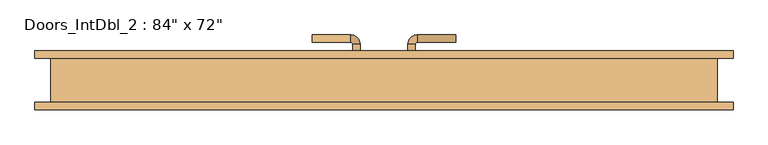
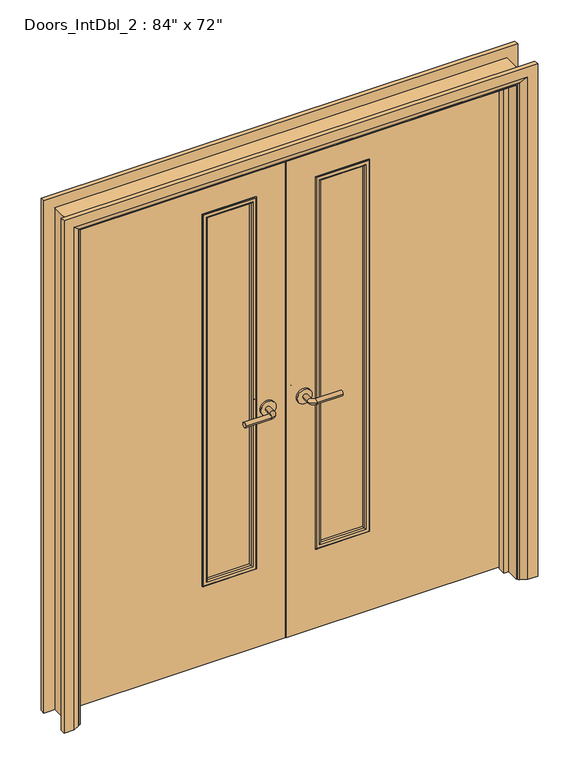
"""IFC4 building model written with IfcOpenShell, lengths in millimetres: door geometry."""

from ifc_helpers import new_model, si_unit, point, frame, frame_2d, origin, place, context, project, spatial, polyline, circle_curve, ellipse_curve, trimmed, segment, composite_curve, outline, extrude, faceted_brep, source, transform, mapped, element, save
from ifc_brep_helpers import plane_surface, cylinder_surface, revolved_surface, advanced_brep


def door_3b9bbc01(model_context):
    return source(origin(), model_context, "Body", "SolidModel", [
        advanced_brep(
        [(-65.0, 20.0, 1007.0), (-85.0, 20.0, 1007.0), (-65.0, -10.0, 1007.0), (-85.0, -10.0, 1007.0), (-90.0, -15.0, 1007.0), (-90.0, -35.0, 1007.0), (-195.0, -35.0, 1007.0), (-195.0, -15.0, 1007.0)],
        [
            (0, 1, circle_curve(frame((-75.0, 20.0, 1007.0), z_axis=(0.0, 1.0, 0.0), x_axis=(-1.0, 0.0, 0.0)), 10.0)),
            (1, 0, circle_curve(frame((-75.0, 20.0, 1007.0), z_axis=(0.0, 1.0, 0.0), x_axis=(-1.0, 0.0, 0.0)), 10.0)),
            (0, 2),
            (2, 3, circle_curve(frame((-75.0, -10.0, 1007.0), z_axis=(0.0, 1.0, 0.0), x_axis=(-1.0, 0.0, 0.0)), 10.0)),
            (3, 1),
            (3, 2, circle_curve(frame((-75.0, -10.0, 1007.0), z_axis=(0.0, 1.0, 0.0), x_axis=(-1.0, 0.0, 0.0)), 10.0)),
            (4, 3, circle_curve(frame((-90.0, -10.0, 1007.0), z_axis=(0.0, 0.0, 1.0), x_axis=(1.0, 0.0, 0.0)), 5.0)),
            (2, 5, circle_curve(frame((-90.0, -10.0, 1007.0), z_axis=(0.0, 0.0, -1.0), x_axis=(1.0, 0.0, 0.0)), 25.0)),
            (5, 4, circle_curve(frame((-90.0, -25.0, 1007.0), z_axis=(1.0, 0.0, 0.0), x_axis=(0.0, 1.0, 0.0)), 10.0)),
            (4, 5, circle_curve(frame((-90.0, -25.0, 1007.0), z_axis=(1.0, 0.0, 0.0), x_axis=(0.0, 1.0, 0.0)), 10.0)),
            (6, 7, circle_curve(frame((-195.0, -25.0, 1007.0), z_axis=(-1.0, 0.0, 0.0), x_axis=(0.0, 1.0, 0.0)), 10.0)),
            (7, 6, circle_curve(frame((-195.0, -25.0, 1007.0), z_axis=(-1.0, 0.0, 0.0), x_axis=(0.0, 1.0, 0.0)), 10.0)),
            (5, 6),
            (7, 4),
        ],
        [
            plane_surface(frame((-75.0, 20.0, 1007.0), z_axis=(0.0, 1.0, 0.0), x_axis=(0.0, 0.0, 1.0))),
            cylinder_surface(frame((-75.0, 20.0, 1007.0), z_axis=(0.0, 1.0, 0.0), x_axis=(-1.0, 0.0, 0.0)), 10.0),
            revolved_surface(trimmed(ellipse_curve(frame((-75.0, -10.0, 1007.0), z_axis=(0.0, 1.0, 0.0), x_axis=(-1.0, 0.0, 0.0)), 10.0, 10.0), [point((-65.0, -10.0, 1007.0))], [point((-85.0, -10.0, 1007.0))], True, "CARTESIAN"), (-90.0, -10.0, 1007.0), (0.0, 0.0, -1.0)),
            revolved_surface(trimmed(ellipse_curve(frame((-75.0, -10.0, 1007.0), z_axis=(0.0, 1.0, 0.0), x_axis=(-1.0, 0.0, 0.0)), 10.0, 10.0), [point((-85.0, -10.0, 1007.0))], [point((-65.0, -10.0, 1007.0))], True, "CARTESIAN"), (-90.0, -10.0, 1007.0), (0.0, 0.0, -1.0)),
            plane_surface(frame((-195.0, -25.0, 1007.0), z_axis=(-1.0, 0.0, 0.0), x_axis=(0.0, 0.0, 1.0))),
            cylinder_surface(frame((-90.0, -25.0, 1007.0), z_axis=(1.0, 0.0, 0.0), x_axis=(0.0, 1.0, 0.0)), 10.0),
        ],
        [
            (0, [[1, 2]]),
            (1, [[-1, 3, 4, 5]]),
            (1, [[-2, -5, 6, -3]]),
            (2, [[7, -4, 8, 9]]),
            (3, [[-8, -6, -7, 10]]),
            (4, [[11, 12]]),
            (5, [[-9, 13, -12, 14]]),
            (5, [[-10, -14, -11, -13]]),
        ],
    ),
        extrude(outline(composite_curve([segment(trimmed(circle_curve(frame_2d((1007.0, -72.5)), 30.0), [point((1007.0, -42.5))], [point((1007.0, -102.5))], False, "CARTESIAN"), True, "CONTINUOUS"), segment(trimmed(circle_curve(frame_2d((1007.0, -72.5)), 30.0), [point((1007.0, -102.5))], [point((1007.0, -42.5))], False, "CARTESIAN"), True, "CONTINUOUS")], self_intersect=False)), frame((0.0, 20.0, 0.0), z_axis=(0.0, 1.0, 0.0), x_axis=(0.0, 0.0, 1.0)), (0.0, 0.0, 1.0), 8.0),
        advanced_brep(
        [(-65.0, 68.0, 1007.0), (-85.0, 68.0, 1007.0), (-85.0, 98.0, 1007.0), (-65.0, 98.0, 1007.0), (-90.0, 103.0, 1007.0), (-90.0, 123.0, 1007.0), (-195.0, 123.0, 1007.0), (-195.0, 103.0, 1007.0)],
        [
            (0, 1, circle_curve(frame((-75.0, 68.0, 1007.0), z_axis=(0.0, -1.0, 0.0), x_axis=(-1.0, 0.0, 0.0)), 10.0)),
            (1, 0, circle_curve(frame((-75.0, 68.0, 1007.0), z_axis=(0.0, -1.0, 0.0), x_axis=(-1.0, 0.0, 0.0)), 10.0)),
            (1, 2),
            (2, 3, circle_curve(frame((-75.0, 98.0, 1007.0), z_axis=(0.0, -1.0, 0.0), x_axis=(-1.0, 0.0, 0.0)), 10.0)),
            (3, 0),
            (3, 2, circle_curve(frame((-75.0, 98.0, 1007.0), z_axis=(0.0, -1.0, 0.0), x_axis=(-1.0, 0.0, 0.0)), 10.0)),
            (4, 5, circle_curve(frame((-90.0, 113.0, 1007.0), z_axis=(1.0, 0.0, 0.0), x_axis=(0.0, -1.0, 0.0)), 10.0)),
            (5, 3, circle_curve(frame((-90.0, 98.0, 1007.0), z_axis=(0.0, 0.0, -1.0), x_axis=(1.0, 0.0, 0.0)), 25.0)),
            (2, 4, circle_curve(frame((-90.0, 98.0, 1007.0), z_axis=(0.0, 0.0, 1.0), x_axis=(1.0, 0.0, 0.0)), 5.0)),
            (5, 4, circle_curve(frame((-90.0, 113.0, 1007.0), z_axis=(1.0, 0.0, 0.0), x_axis=(0.0, -1.0, 0.0)), 10.0)),
            (6, 7, circle_curve(frame((-195.0, 113.0, 1007.0), z_axis=(-1.0, 0.0, 0.0), x_axis=(0.0, -1.0, 0.0)), 10.0)),
            (7, 6, circle_curve(frame((-195.0, 113.0, 1007.0), z_axis=(-1.0, 0.0, 0.0), x_axis=(0.0, -1.0, 0.0)), 10.0)),
            (4, 7),
            (6, 5),
        ],
        [
            plane_surface(frame((-75.0, 68.0, 1007.0), z_axis=(0.0, -1.0, 0.0), x_axis=(0.0, 0.0, 1.0))),
            cylinder_surface(frame((-75.0, 68.0, 1007.0), z_axis=(0.0, -1.0, 0.0), x_axis=(-1.0, 0.0, 0.0)), 10.0),
            revolved_surface(trimmed(ellipse_curve(frame((-75.0, 98.0, 1007.0), z_axis=(0.0, 1.0, 0.0), x_axis=(-1.0, 0.0, 0.0)), 10.0, 10.0), [point((-65.0, 98.0, 1007.0))], [point((-85.0, 98.0, 1007.0))], True, "CARTESIAN"), (-90.0, 98.0, 1007.0), (0.0, 0.0, -1.0)),
            revolved_surface(trimmed(ellipse_curve(frame((-75.0, 98.0, 1007.0), z_axis=(0.0, 1.0, 0.0), x_axis=(-1.0, 0.0, 0.0)), 10.0, 10.0), [point((-85.0, 98.0, 1007.0))], [point((-65.0, 98.0, 1007.0))], True, "CARTESIAN"), (-90.0, 98.0, 1007.0), (0.0, 0.0, -1.0)),
            plane_surface(frame((-195.0, 113.0, 1007.0), z_axis=(-1.0, 0.0, 0.0), x_axis=(0.0, 0.0, 1.0))),
            cylinder_surface(frame((-90.0, 113.0, 1007.0), z_axis=(1.0, 0.0, 0.0), x_axis=(0.0, -1.0, 0.0)), 10.0),
        ],
        [
            (0, [[1, 2]]),
            (1, [[3, 4, 5, -2]]),
            (1, [[-5, 6, -3, -1]]),
            (2, [[7, 8, -4, 9]]),
            (3, [[10, -9, -6, -8]]),
            (4, [[11, 12]]),
            (5, [[13, -11, 14, -7]]),
            (5, [[-14, -12, -13, -10]]),
        ],
    ),
        extrude(outline(composite_curve([segment(trimmed(circle_curve(frame_2d((1007.0, -72.5)), 30.0), [point((1007.0, -42.5))], [point((1007.0, -102.5))], False, "CARTESIAN"), True, "CONTINUOUS"), segment(trimmed(circle_curve(frame_2d((1007.0, -72.5)), 30.0), [point((1007.0, -102.5))], [point((1007.0, -42.5))], False, "CARTESIAN"), True, "CONTINUOUS")], self_intersect=False)), frame((0.0, 60.0, 0.0), z_axis=(0.0, 1.0, 0.0), x_axis=(0.0, 0.0, 1.0)), (0.0, 0.0, 1.0), 8.0),
        advanced_brep(
        [(65.0, 20.0, 1007.0), (85.0, 20.0, 1007.0), (85.0, -10.0, 1007.0), (65.0, -10.0, 1007.0), (90.0, -15.0, 1007.0), (90.0, -35.0, 1007.0), (195.0, -35.0, 1007.0), (195.0, -15.0, 1007.0)],
        [
            (0, 1, circle_curve(frame((75.0, 20.0, 1007.0), z_axis=(0.0, 1.0, 0.0), x_axis=(1.0, 0.0, 0.0)), 10.0)),
            (1, 0, circle_curve(frame((75.0, 20.0, 1007.0), z_axis=(0.0, 1.0, 0.0), x_axis=(1.0, 0.0, 0.0)), 10.0)),
            (1, 2),
            (2, 3, circle_curve(frame((75.0, -10.0, 1007.0), z_axis=(0.0, 1.0, 0.0), x_axis=(1.0, 0.0, 0.0)), 10.0)),
            (3, 0),
            (3, 2, circle_curve(frame((75.0, -10.0, 1007.0), z_axis=(0.0, 1.0, 0.0), x_axis=(1.0, 0.0, 0.0)), 10.0)),
            (4, 5, circle_curve(frame((90.0, -25.0, 1007.0), z_axis=(-1.0, 0.0, 0.0), x_axis=(0.0, 1.0, 0.0)), 10.0)),
            (5, 3, circle_curve(frame((90.0, -10.0, 1007.0), z_axis=(0.0, 0.0, -1.0), x_axis=(-1.0, 0.0, 0.0)), 25.0)),
            (2, 4, circle_curve(frame((90.0, -10.0, 1007.0), z_axis=(0.0, 0.0, 1.0), x_axis=(-1.0, 0.0, 0.0)), 5.0)),
            (5, 4, circle_curve(frame((90.0, -25.0, 1007.0), z_axis=(-1.0, 0.0, 0.0), x_axis=(0.0, 1.0, 0.0)), 10.0)),
            (6, 7, circle_curve(frame((195.0, -25.0, 1007.0), z_axis=(1.0, 0.0, 0.0), x_axis=(0.0, 1.0, 0.0)), 10.0)),
            (7, 6, circle_curve(frame((195.0, -25.0, 1007.0), z_axis=(1.0, 0.0, 0.0), x_axis=(0.0, 1.0, 0.0)), 10.0)),
            (4, 7),
            (6, 5),
        ],
        [
            plane_surface(frame((75.0, 20.0, 1007.0), z_axis=(0.0, 1.0, 0.0), x_axis=(0.0, 0.0, 1.0))),
            cylinder_surface(frame((75.0, 20.0, 1007.0), z_axis=(0.0, 1.0, 0.0), x_axis=(1.0, 0.0, 0.0)), 10.0),
            revolved_surface(trimmed(ellipse_curve(frame((75.0, -10.0, 1007.0), z_axis=(0.0, -1.0, 0.0), x_axis=(1.0, 0.0, 0.0)), 10.0, 10.0), [point((65.0, -10.0, 1007.0))], [point((85.0, -10.0, 1007.0))], True, "CARTESIAN"), (90.0, -10.0, 1007.0), (0.0, 0.0, -1.0)),
            revolved_surface(trimmed(ellipse_curve(frame((75.0, -10.0, 1007.0), z_axis=(0.0, -1.0, 0.0), x_axis=(1.0, 0.0, 0.0)), 10.0, 10.0), [point((85.0, -10.0, 1007.0))], [point((65.0, -10.0, 1007.0))], True, "CARTESIAN"), (90.0, -10.0, 1007.0), (0.0, 0.0, -1.0)),
            plane_surface(frame((195.0, -25.0, 1007.0), z_axis=(1.0, 0.0, 0.0), x_axis=(0.0, 0.0, 1.0))),
            cylinder_surface(frame((90.0, -25.0, 1007.0), z_axis=(-1.0, 0.0, 0.0), x_axis=(0.0, 1.0, 0.0)), 10.0),
        ],
        [
            (0, [[1, 2]]),
            (1, [[3, 4, 5, -2]]),
            (1, [[-5, 6, -3, -1]]),
            (2, [[7, 8, -4, 9]]),
            (3, [[10, -9, -6, -8]]),
            (4, [[11, 12]]),
            (5, [[13, -11, 14, -7]]),
            (5, [[-14, -12, -13, -10]]),
        ],
    ),
        extrude(outline(composite_curve([segment(trimmed(circle_curve(frame_2d((1007.0, 72.5)), 30.0), [point((1007.0, 42.5))], [point((1007.0, 102.5))], False, "CARTESIAN"), True, "CONTINUOUS"), segment(trimmed(circle_curve(frame_2d((1007.0, 72.5)), 30.0), [point((1007.0, 102.5))], [point((1007.0, 42.5))], False, "CARTESIAN"), True, "CONTINUOUS")], self_intersect=False)), frame((0.0, 20.0, 0.0), z_axis=(0.0, 1.0, 0.0), x_axis=(0.0, 0.0, 1.0)), (0.0, 0.0, 1.0), 8.0),
        advanced_brep(
        [(65.0, 68.0, 1007.0), (85.0, 68.0, 1007.0), (65.0, 98.0, 1007.0), (85.0, 98.0, 1007.0), (90.0, 103.0, 1007.0), (90.0, 123.0, 1007.0), (195.0, 123.0, 1007.0), (195.0, 103.0, 1007.0)],
        [
            (0, 1, circle_curve(frame((75.0, 68.0, 1007.0), z_axis=(0.0, -1.0, 0.0), x_axis=(1.0, 0.0, 0.0)), 10.0)),
            (1, 0, circle_curve(frame((75.0, 68.0, 1007.0), z_axis=(0.0, -1.0, 0.0), x_axis=(1.0, 0.0, 0.0)), 10.0)),
            (0, 2),
            (2, 3, circle_curve(frame((75.0, 98.0, 1007.0), z_axis=(0.0, -1.0, 0.0), x_axis=(1.0, 0.0, 0.0)), 10.0)),
            (3, 1),
            (3, 2, circle_curve(frame((75.0, 98.0, 1007.0), z_axis=(0.0, -1.0, 0.0), x_axis=(1.0, 0.0, 0.0)), 10.0)),
            (4, 3, circle_curve(frame((90.0, 98.0, 1007.0), z_axis=(0.0, 0.0, 1.0), x_axis=(-1.0, 0.0, 0.0)), 5.0)),
            (2, 5, circle_curve(frame((90.0, 98.0, 1007.0), z_axis=(0.0, 0.0, -1.0), x_axis=(-1.0, 0.0, 0.0)), 25.0)),
            (5, 4, circle_curve(frame((90.0, 113.0, 1007.0), z_axis=(-1.0, 0.0, 0.0), x_axis=(0.0, -1.0, 0.0)), 10.0)),
            (4, 5, circle_curve(frame((90.0, 113.0, 1007.0), z_axis=(-1.0, 0.0, 0.0), x_axis=(0.0, -1.0, 0.0)), 10.0)),
            (6, 7, circle_curve(frame((195.0, 113.0, 1007.0), z_axis=(1.0, 0.0, 0.0), x_axis=(0.0, -1.0, 0.0)), 10.0)),
            (7, 6, circle_curve(frame((195.0, 113.0, 1007.0), z_axis=(1.0, 0.0, 0.0), x_axis=(0.0, -1.0, 0.0)), 10.0)),
            (5, 6),
            (7, 4),
        ],
        [
            plane_surface(frame((75.0, 68.0, 1007.0), z_axis=(0.0, -1.0, 0.0), x_axis=(0.0, 0.0, 1.0))),
            cylinder_surface(frame((75.0, 68.0, 1007.0), z_axis=(0.0, -1.0, 0.0), x_axis=(1.0, 0.0, 0.0)), 10.0),
            revolved_surface(trimmed(ellipse_curve(frame((75.0, 98.0, 1007.0), z_axis=(0.0, -1.0, 0.0), x_axis=(1.0, 0.0, 0.0)), 10.0, 10.0), [point((65.0, 98.0, 1007.0))], [point((85.0, 98.0, 1007.0))], True, "CARTESIAN"), (90.0, 98.0, 1007.0), (0.0, 0.0, -1.0)),
            revolved_surface(trimmed(ellipse_curve(frame((75.0, 98.0, 1007.0), z_axis=(0.0, -1.0, 0.0), x_axis=(1.0, 0.0, 0.0)), 10.0, 10.0), [point((85.0, 98.0, 1007.0))], [point((65.0, 98.0, 1007.0))], True, "CARTESIAN"), (90.0, 98.0, 1007.0), (0.0, 0.0, -1.0)),
            plane_surface(frame((195.0, 113.0, 1007.0), z_axis=(1.0, 0.0, 0.0), x_axis=(0.0, 0.0, 1.0))),
            cylinder_surface(frame((90.0, 113.0, 1007.0), z_axis=(-1.0, 0.0, 0.0), x_axis=(0.0, -1.0, 0.0)), 10.0),
        ],
        [
            (0, [[1, 2]]),
            (1, [[-1, 3, 4, 5]]),
            (1, [[-2, -5, 6, -3]]),
            (2, [[7, -4, 8, 9]]),
            (3, [[-8, -6, -7, 10]]),
            (4, [[11, 12]]),
            (5, [[-9, 13, -12, 14]]),
            (5, [[-10, -14, -11, -13]]),
        ],
    ),
        extrude(outline(composite_curve([segment(trimmed(circle_curve(frame_2d((1007.0, 72.5)), 30.0), [point((1007.0, 42.5))], [point((1007.0, 102.5))], False, "CARTESIAN"), True, "CONTINUOUS"), segment(trimmed(circle_curve(frame_2d((1007.0, 72.5)), 30.0), [point((1007.0, 102.5))], [point((1007.0, 42.5))], False, "CARTESIAN"), True, "CONTINUOUS")], self_intersect=False)), frame((0.0, 60.0, 0.0), z_axis=(0.0, 1.0, 0.0), x_axis=(0.0, 0.0, 1.0)), (0.0, 0.0, 1.0), 8.0),
        advanced_brep(
        [(-949.4, -80.0, 0.0), (-949.4, -60.0, 0.0), (-879.4, -60.0, 0.0), (-883.4, -66.0, 0.0), (-909.4, -80.0, 0.0), (-949.4, -80.0, 2168.6), (-949.4, -60.0, 2168.6), (949.4, -60.0, 2168.6), (949.4, -60.0, 0.0), (879.4, -60.0, 0.0), (879.4, -60.0, 2098.6), (-879.4, -60.0, 2098.6), (-883.4, -66.0, 2102.6), (-909.4, -80.0, 2128.6), (909.4, -80.0, 2128.6), (909.4, -80.0, 0.0), (949.4, -80.0, 0.0), (949.4, -80.0, 2168.6), (883.4, -66.0, 0.0), (883.4, -66.0, 2102.6)],
        [
            (0, 1),
            (1, 2),
            (2, 3, circle_curve(frame((-887.4, -59.0, 0.0), z_axis=(0.0, 0.0, -1.0), x_axis=(-1.0, 0.0, 0.0)), 8.0622577)),
            (3, 4),
            (4, 0),
            (0, 5),
            (5, 6),
            (6, 1),
            (6, 7),
            (7, 8),
            (8, 9),
            (9, 10),
            (10, 11),
            (11, 2),
            (11, 12, ellipse_curve(frame((-887.4, -59.0, 2106.6), z_axis=(-0.7071067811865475, 0.0, -0.7071067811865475), x_axis=(0.7071067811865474, 0.0, -0.7071067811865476)), 11.4017543, 8.0622577)),
            (12, 3),
            (12, 13),
            (13, 4),
            (13, 14),
            (14, 15),
            (15, 16),
            (16, 17),
            (17, 5),
            (7, 17),
            (16, 8),
            (15, 18),
            (18, 9, circle_curve(frame((887.4, -59.0, 0.0), z_axis=(0.0, 0.0, -1.0), x_axis=(1.0, 0.0, 0.0)), 8.0622577)),
            (19, 10, ellipse_curve(frame((887.4, -59.0, 2106.6), z_axis=(0.7071067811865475, 0.0, -0.7071067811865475), x_axis=(0.7071067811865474, 0.0, 0.7071067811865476)), 11.4017543, 8.0622577)),
            (18, 19),
            (14, 19),
            (19, 12),
        ],
        [
            plane_surface(frame((-879.4, -60.0, 0.0), z_axis=(0.0, 0.0, -1.0), x_axis=(0.0, -1.0, 0.0))),
            plane_surface(frame((-949.4, -80.0, 0.0), z_axis=(-1.0, 0.0, 0.0), x_axis=(0.0, 0.0, 1.0))),
            plane_surface(frame((-949.4, -60.0, 0.0), z_axis=(0.0, 1.0, 0.0), x_axis=(0.0, 0.0, 1.0))),
            cylinder_surface(frame((-887.4, -59.0, 0.0), z_axis=(0.0, 0.0, -1.0), x_axis=(-1.0, 0.0, 0.0)), 8.0622577),
            plane_surface(frame((-883.4, -66.0, 0.0), z_axis=(0.4740998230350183, -0.8804710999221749, 0.0), x_axis=(0.0, 0.0, 1.0))),
            plane_surface(frame((-909.4, -80.0, 0.0), z_axis=(0.0, -1.0, 0.0), x_axis=(0.0, 0.0, 1.0))),
            plane_surface(frame((949.4, -80.0, 2168.6), z_axis=(1.0, 0.0, 0.0), x_axis=(0.0, 0.0, -1.0))),
            plane_surface(frame((879.4, -60.0, 0.0), z_axis=(0.0, 0.0, -1.0), x_axis=(0.0, -1.0, 0.0))),
            cylinder_surface(frame((887.4, -59.0, 2098.6), z_axis=(0.0, 0.0, 1.0), x_axis=(1.0, 0.0, 0.0)), 8.0622577),
            plane_surface(frame((883.4, -66.0, 2102.6), z_axis=(-0.4740998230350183, -0.8804710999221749, 0.0), x_axis=(0.0, 0.0, -1.0))),
            plane_surface(frame((-949.4, -80.0, 2168.6), z_axis=(0.0, 0.0, 1.0), x_axis=(1.0, 0.0, 0.0))),
            cylinder_surface(frame((-879.4, -59.0, 2106.6), z_axis=(-1.0, 0.0, 0.0), x_axis=(0.0, 0.0, 1.0)), 8.0622577),
            plane_surface(frame((-883.4, -66.0, 2102.6), z_axis=(0.0, -0.8804710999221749, -0.4740998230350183), x_axis=(1.0, 0.0, 0.0))),
        ],
        [
            (0, [[1, 2, 3, 4, 5]]),
            (1, [[-1, 6, 7, 8]]),
            (2, [[-2, -8, 9, 10, 11, 12, 13, 14]]),
            (3, [[-3, -14, 15, 16]]),
            (4, [[-4, -16, 17, 18]]),
            (5, [[-5, -18, 19, 20, 21, 22, 23, -6]]),
            (6, [[24, -22, 25, -10]]),
            (7, [[-21, 26, 27, -11, -25]]),
            (8, [[28, -12, -27, 29]]),
            (9, [[30, -29, -26, -20]]),
            (10, [[-7, -23, -24, -9]]),
            (11, [[-15, -13, -28, 31]]),
            (12, [[-17, -31, -30, -19]]),
        ],
    ),
        advanced_brep(
        [(949.4, 80.0, 0.0), (949.4, 60.0, 0.0), (879.4, 60.0, 0.0), (883.4, 66.0, 0.0), (909.4, 80.0, 0.0), (949.4, 80.0, 2168.6), (949.4, 60.0, 2168.6), (-949.4, 60.0, 2168.6), (-949.4, 60.0, 0.0), (-879.4, 60.0, 0.0), (-879.4, 60.0, 2098.6), (879.4, 60.0, 2098.6), (883.4, 66.0, 2102.6), (909.4, 80.0, 2128.6), (-909.4, 80.0, 2128.6), (-909.4, 80.0, 0.0), (-949.4, 80.0, 0.0), (-949.4, 80.0, 2168.6), (-883.4, 66.0, 0.0), (-883.4, 66.0, 2102.6)],
        [
            (0, 1),
            (1, 2),
            (2, 3, circle_curve(frame((887.4, 59.0, 0.0), z_axis=(0.0, 0.0, -1.0), x_axis=(1.0, 0.0, 0.0)), 8.0622577)),
            (3, 4),
            (4, 0),
            (0, 5),
            (5, 6),
            (6, 1),
            (6, 7),
            (7, 8),
            (8, 9),
            (9, 10),
            (10, 11),
            (11, 2),
            (11, 12, ellipse_curve(frame((887.4, 59.0, 2106.6), z_axis=(0.7071067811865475, 0.0, -0.7071067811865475), x_axis=(-0.7071067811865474, 0.0, -0.7071067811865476)), 11.4017543, 8.0622577)),
            (12, 3),
            (12, 13),
            (13, 4),
            (13, 14),
            (14, 15),
            (15, 16),
            (16, 17),
            (17, 5),
            (7, 17),
            (16, 8),
            (15, 18),
            (18, 9, circle_curve(frame((-887.4, 59.0, 0.0), z_axis=(0.0, 0.0, -1.0), x_axis=(-1.0, 0.0, 0.0)), 8.0622577)),
            (19, 10, ellipse_curve(frame((-887.4, 59.0, 2106.6), z_axis=(-0.7071067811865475, 0.0, -0.7071067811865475), x_axis=(-0.7071067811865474, 0.0, 0.7071067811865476)), 11.4017543, 8.0622577)),
            (18, 19),
            (14, 19),
            (19, 12),
        ],
        [
            plane_surface(frame((879.4, 60.0, 0.0), z_axis=(0.0, 0.0, -1.0), x_axis=(0.0, -1.0, 0.0))),
            plane_surface(frame((949.4, 80.0, 0.0), z_axis=(1.0, 0.0, 0.0), x_axis=(0.0, 0.0, 1.0))),
            plane_surface(frame((949.4, 60.0, 0.0), z_axis=(0.0, -1.0, 0.0), x_axis=(0.0, 0.0, 1.0))),
            cylinder_surface(frame((887.4, 59.0, 0.0), z_axis=(0.0, 0.0, -1.0), x_axis=(1.0, 0.0, 0.0)), 8.0622577),
            plane_surface(frame((883.4, 66.0, 0.0), z_axis=(-0.4740998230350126, 0.8804710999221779, 0.0), x_axis=(0.0, 0.0, 1.0))),
            plane_surface(frame((909.4, 80.0, 0.0), z_axis=(0.0, 1.0, 0.0), x_axis=(0.0, 0.0, 1.0))),
            plane_surface(frame((-949.4, 80.0, 2168.6), z_axis=(-1.0, 0.0, 0.0), x_axis=(0.0, 0.0, -1.0))),
            plane_surface(frame((-879.4, 60.0, 0.0), z_axis=(0.0, 0.0, -1.0), x_axis=(0.0, -1.0, 0.0))),
            cylinder_surface(frame((-887.4, 59.0, 2098.6), z_axis=(0.0, 0.0, 1.0), x_axis=(-1.0, 0.0, 0.0)), 8.0622577),
            plane_surface(frame((-883.4, 66.0, 2102.6), z_axis=(0.4740998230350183, 0.8804710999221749, 0.0), x_axis=(0.0, 0.0, -1.0))),
            plane_surface(frame((949.4, 80.0, 2168.6), z_axis=(0.0, 0.0, 1.0), x_axis=(-1.0, 0.0, 0.0))),
            cylinder_surface(frame((879.4, 59.0, 2106.6), z_axis=(1.0, 0.0, 0.0), x_axis=(0.0, 0.0, 1.0)), 8.0622577),
            plane_surface(frame((883.4, 66.0, 2102.6), z_axis=(0.0, 0.8804710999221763, -0.4740998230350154), x_axis=(-1.0, 0.0, 0.0))),
        ],
        [
            (0, [[1, 2, 3, 4, 5]]),
            (1, [[-1, 6, 7, 8]]),
            (2, [[-2, -8, 9, 10, 11, 12, 13, 14]]),
            (3, [[-3, -14, 15, 16]]),
            (4, [[-4, -16, 17, 18]]),
            (5, [[-5, -18, 19, 20, 21, 22, 23, -6]]),
            (6, [[24, -22, 25, -10]]),
            (7, [[-21, 26, 27, -11, -25]]),
            (8, [[28, -12, -27, 29]]),
            (9, [[30, -29, -26, -20]]),
            (10, [[-7, -23, -24, -9]]),
            (11, [[-15, -13, -28, 31]]),
            (12, [[-17, -31, -30, -19]]),
        ],
    ),
        faceted_brep([(-855.4, 25.0, 0.0), (-855.4, -7.0, 0.0), (-874.4, -7.0, 0.0), (-874.4, 25.0, 0.0), (-855.4, 25.0, 2074.6), (-855.4, -7.0, 2074.6), (-874.4, -7.0, 2093.6), (-874.4, 25.0, 2093.6), (855.4, 25.0, 0.0), (874.4, 25.0, 0.0), (874.4, -7.0, 0.0), (855.4, -7.0, 0.0), (855.4, 25.0, 2074.6), (874.4, 25.0, 2093.6), (874.4, -7.0, 2093.6), (855.4, -7.0, 2074.6)], [[[0, 1, 2, 3]], [[1, 0, 4, 5]], [[2, 1, 5, 6]], [[3, 2, 6, 7]], [[0, 3, 7, 4]], [[8, 9, 10, 11]], [[12, 13, 9, 8]], [[13, 14, 10, 9]], [[14, 15, 11, 10]], [[15, 12, 8, 11]], [[5, 4, 12, 15]], [[6, 5, 15, 14]], [[7, 6, 14, 13]], [[4, 7, 13, 12]]]),
        extrude(outline(polyline([(2125.6, -906.4), (0.0, -906.4), (0.0, -874.4), (2093.6, -874.4), (2093.6, 874.4), (0.0, 874.4), (0.0, 906.4), (2125.6, 906.4), (2125.6, -906.4)])), frame((0.0, -60.0, 0.0), z_axis=(0.0, 1.0, 0.0), x_axis=(0.0, 0.0, 1.0)), (0.0, 0.0, 1.0), 120.0),
        extrude(outline(polyline([(326.5, 38.0), (126.5, 38.0), (126.5, 50.0), (326.5, 50.0), (326.5, 38.0)])), frame((0.0, 0.0, 350.0), z_axis=(0.0, 0.0, 1.0), x_axis=(1.0, 0.0, 0.0)), (0.0, 0.0, 1.0), 1558.6),
        extrude(outline(polyline([(-126.5, 38.0), (-326.5, 38.0), (-326.5, 50.0), (-126.5, 50.0), (-126.5, 38.0)])), frame((0.0, 0.0, 350.0), z_axis=(0.0, 0.0, 1.0), x_axis=(1.0, 0.0, 0.0)), (0.0, 0.0, 1.0), 1558.6),
        extrude(outline(polyline([(5.753223, -871.4), (5.753223, -1.5), (2090.6, -1.5), (2090.6, -871.4), (5.753223, -871.4)]), holes=[polyline([(1908.6, -326.5), (1908.6, -126.5), (350.0, -126.5), (350.0, -326.5), (1908.6, -326.5)])]), frame((0.0, 28.0, 0.0), z_axis=(0.0, 1.0, 0.0), x_axis=(0.0, 0.0, 1.0)), (0.0, 0.0, 1.0), 32.0),
        extrude(outline(polyline([(5.753223, 871.4), (2090.6, 871.4), (2090.6, 1.5), (5.753223, 1.5), (5.753223, 871.4)]), holes=[polyline([(1908.6, 126.5), (1908.6, 326.5), (350.0, 326.5), (350.0, 126.5), (1908.6, 126.5)])]), frame((0.0, 28.0, 0.0), z_axis=(0.0, 1.0, 0.0), x_axis=(0.0, 0.0, 1.0)), (0.0, 0.0, 1.0), 32.0),
        advanced_brep(
        [(326.5, 38.0, 1908.6), (326.5, 28.0, 1908.6), (326.5, 28.0, 350.0), (326.5, 38.0, 350.0), (314.5, 27.0, 1896.6), (314.5, 38.0, 1896.6), (314.5, 38.0, 362.0), (314.5, 27.0, 362.0), (319.5, 22.0, 1901.6), (319.5, 22.0, 357.0), (334.5, 24.0, 1916.6), (332.5, 22.0, 1914.6), (332.5, 22.0, 344.0), (334.5, 24.0, 342.0), (334.5, 28.0, 1916.6), (334.5, 28.0, 342.0), (126.5, 28.0, 350.0), (126.5, 38.0, 350.0), (138.5, 38.0, 362.0), (138.5, 27.0, 362.0), (133.5, 22.0, 357.0), (120.5, 22.0, 344.0), (118.5, 24.0, 342.0), (118.5, 28.0, 342.0), (126.5, 28.0, 1908.6), (126.5, 38.0, 1908.6), (138.5, 38.0, 1896.6), (138.5, 27.0, 1896.6), (133.5, 22.0, 1901.6), (120.5, 22.0, 1914.6), (118.5, 24.0, 1916.6), (118.5, 28.0, 1916.6)],
        [
            (0, 1),
            (1, 2),
            (2, 3),
            (3, 0),
            (4, 5),
            (5, 6),
            (6, 7),
            (7, 4),
            (8, 4, ellipse_curve(frame((319.5, 27.0, 1901.6), z_axis=(0.7071067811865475, 0.0, -0.7071067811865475), x_axis=(0.7071067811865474, 0.0, 0.7071067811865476)), 7.0710678, 5.0)),
            (7, 9, ellipse_curve(frame((319.5, 27.0, 357.0), z_axis=(0.7071067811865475, 0.0, 0.7071067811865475), x_axis=(-0.7071067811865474, 0.0, 0.7071067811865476)), 7.0710678, 5.0)),
            (9, 8),
            (10, 11, ellipse_curve(frame((332.5, 24.0, 1914.6), z_axis=(0.7071067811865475, 0.0, -0.7071067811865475), x_axis=(0.7071067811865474, 0.0, 0.7071067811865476)), 2.8284271, 2.0)),
            (11, 12),
            (12, 13, ellipse_curve(frame((332.5, 24.0, 344.0), z_axis=(0.7071067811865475, 0.0, 0.7071067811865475), x_axis=(-0.7071067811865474, 0.0, 0.7071067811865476)), 2.8284271, 2.0)),
            (13, 10),
            (14, 10),
            (13, 15),
            (15, 14),
            (2, 16),
            (16, 17),
            (17, 3),
            (6, 18),
            (18, 19),
            (19, 7),
            (19, 20, ellipse_curve(frame((133.5, 27.0, 357.0), z_axis=(0.7071067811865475, 0.0, -0.7071067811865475), x_axis=(0.7071067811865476, 0.0, 0.7071067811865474)), 7.0710678, 5.0)),
            (20, 9),
            (12, 21),
            (21, 22, ellipse_curve(frame((120.5, 24.0, 344.0), z_axis=(0.7071067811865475, 0.0, -0.7071067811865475), x_axis=(0.7071067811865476, 0.0, 0.7071067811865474)), 2.8284271, 2.0)),
            (22, 13),
            (22, 23),
            (23, 15),
            (16, 24),
            (24, 25),
            (25, 17),
            (18, 26),
            (26, 27),
            (27, 19),
            (27, 28, ellipse_curve(frame((133.5, 27.0, 1901.6), z_axis=(-0.7071067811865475, 0.0, -0.7071067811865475), x_axis=(0.7071067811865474, 0.0, -0.7071067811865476)), 7.0710678, 5.0)),
            (28, 20),
            (21, 29),
            (29, 30, ellipse_curve(frame((120.5, 24.0, 1914.6), z_axis=(-0.7071067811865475, 0.0, -0.7071067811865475), x_axis=(0.7071067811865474, 0.0, -0.7071067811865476)), 2.8284271, 2.0)),
            (30, 22),
            (30, 31),
            (31, 23),
            (31, 14),
            (1, 24),
            (0, 25),
            (5, 26),
            (4, 27),
            (8, 28),
            (11, 29),
            (10, 30),
        ],
        [
            plane_surface(frame((326.5, 28.0, 1908.6), z_axis=(1.0, 0.0, 0.0), x_axis=(0.0, 0.0, -1.0))),
            plane_surface(frame((314.5, 38.0, 1896.6), z_axis=(-1.0, 0.0, 0.0), x_axis=(0.0, 0.0, -1.0))),
            cylinder_surface(frame((319.5, 27.0, 1908.6), z_axis=(0.0, 0.0, 1.0), x_axis=(1.0, 0.0, 0.0)), 5.0),
            cylinder_surface(frame((332.5, 24.0, 1908.6), z_axis=(0.0, 0.0, 1.0), x_axis=(1.0, 0.0, 0.0)), 2.0),
            plane_surface(frame((334.5, 24.0, 1916.6), z_axis=(1.0, 0.0, 0.0), x_axis=(0.0, 0.0, -1.0))),
            plane_surface(frame((326.5, 28.0, 350.0), z_axis=(0.0, 0.0, -1.0), x_axis=(-1.0, 0.0, 0.0))),
            plane_surface(frame((314.5, 38.0, 362.0), z_axis=(0.0, 0.0, 1.0), x_axis=(-1.0, 0.0, 0.0))),
            cylinder_surface(frame((326.5, 27.0, 357.0), z_axis=(1.0, 0.0, 0.0), x_axis=(0.0, 0.0, -1.0)), 5.0),
            cylinder_surface(frame((326.5, 24.0, 344.0), z_axis=(1.0, 0.0, 0.0), x_axis=(0.0, 0.0, -1.0)), 2.0),
            plane_surface(frame((334.5, 24.0, 342.0), z_axis=(0.0, 0.0, -1.0), x_axis=(-1.0, 0.0, 0.0))),
            plane_surface(frame((126.5, 28.0, 350.0), z_axis=(-1.0, 0.0, 0.0), x_axis=(0.0, 0.0, 1.0))),
            plane_surface(frame((138.5, 38.0, 362.0), z_axis=(1.0, 0.0, 0.0), x_axis=(0.0, 0.0, 1.0))),
            cylinder_surface(frame((133.5, 27.0, 350.0), z_axis=(0.0, 0.0, -1.0), x_axis=(-1.0, 0.0, 0.0)), 5.0),
            cylinder_surface(frame((120.5, 24.0, 350.0), z_axis=(0.0, 0.0, -1.0), x_axis=(-1.0, 0.0, 0.0)), 2.0),
            plane_surface(frame((118.5, 24.0, 342.0), z_axis=(-1.0, 0.0, 0.0), x_axis=(0.0, 0.0, 1.0))),
            plane_surface(frame((118.5, 28.0, 1916.6), z_axis=(0.0, 1.0, 0.0), x_axis=(1.0, 0.0, 0.0))),
            plane_surface(frame((126.5, 28.0, 1908.6), z_axis=(0.0, 0.0, 1.0), x_axis=(1.0, 0.0, 0.0))),
            plane_surface(frame((126.5, 38.0, 1908.6), z_axis=(0.0, 1.0, 0.0), x_axis=(1.0, 0.0, 0.0))),
            plane_surface(frame((138.5, 38.0, 1896.6), z_axis=(0.0, 0.0, -1.0), x_axis=(1.0, 0.0, 0.0))),
            cylinder_surface(frame((126.5, 27.0, 1901.6), z_axis=(-1.0, 0.0, 0.0), x_axis=(0.0, 0.0, 1.0)), 5.0),
            plane_surface(frame((133.5, 22.0, 1901.6), z_axis=(0.0, -1.0, 0.0), x_axis=(1.0, 0.0, 0.0))),
            cylinder_surface(frame((126.5, 24.0, 1914.6), z_axis=(-1.0, 0.0, 0.0), x_axis=(0.0, 0.0, 1.0)), 2.0),
            plane_surface(frame((118.5, 24.0, 1916.6), z_axis=(0.0, 0.0, 1.0), x_axis=(1.0, 0.0, 0.0))),
        ],
        [
            (0, [[1, 2, 3, 4]]),
            (1, [[5, 6, 7, 8]]),
            (2, [[9, -8, 10, 11]]),
            (3, [[12, 13, 14, 15]]),
            (4, [[16, -15, 17, 18]]),
            (5, [[-3, 19, 20, 21]]),
            (6, [[-7, 22, 23, 24]]),
            (7, [[-10, -24, 25, 26]]),
            (8, [[-14, 27, 28, 29]]),
            (9, [[-17, -29, 30, 31]]),
            (10, [[-20, 32, 33, 34]]),
            (11, [[-23, 35, 36, 37]]),
            (12, [[-25, -37, 38, 39]]),
            (13, [[-28, 40, 41, 42]]),
            (14, [[-30, -42, 43, 44]]),
            (15, [[-31, -44, 45, -18], [46, -32, -19, -2]]),
            (16, [[-33, -46, -1, 47]]),
            (17, [[-21, -34, -47, -4], [48, -35, -22, -6]]),
            (18, [[-36, -48, -5, 49]]),
            (19, [[-38, -49, -9, 50]]),
            (20, [[51, -40, -27, -13], [-26, -39, -50, -11]]),
            (21, [[-41, -51, -12, 52]]),
            (22, [[-43, -52, -16, -45]]),
        ],
    ),
        advanced_brep(
        [(-326.5, 38.0, 350.0), (-326.5, 28.0, 350.0), (-326.5, 28.0, 1908.6), (-326.5, 38.0, 1908.6), (-314.5, 27.0, 362.0), (-314.5, 38.0, 362.0), (-314.5, 38.0, 1896.6), (-314.5, 27.0, 1896.6), (-319.5, 22.0, 357.0), (-319.5, 22.0, 1901.6), (-334.5, 24.0, 342.0), (-332.5, 22.0, 344.0), (-332.5, 22.0, 1914.6), (-334.5, 24.0, 1916.6), (-334.5, 28.0, 342.0), (-334.5, 28.0, 1916.6), (-126.5, 28.0, 1908.6), (-126.5, 38.0, 1908.6), (-138.5, 38.0, 1896.6), (-138.5, 27.0, 1896.6), (-133.5, 22.0, 1901.6), (-120.5, 22.0, 1914.6), (-118.5, 24.0, 1916.6), (-118.5, 28.0, 1916.6), (-126.5, 28.0, 350.0), (-126.5, 38.0, 350.0), (-138.5, 38.0, 362.0), (-138.5, 27.0, 362.0), (-133.5, 22.0, 357.0), (-120.5, 22.0, 344.0), (-118.5, 24.0, 342.0), (-118.5, 28.0, 342.0)],
        [
            (0, 1),
            (1, 2),
            (2, 3),
            (3, 0),
            (4, 5),
            (5, 6),
            (6, 7),
            (7, 4),
            (8, 4, ellipse_curve(frame((-319.5, 27.0, 357.0), z_axis=(-0.7071067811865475, 0.0, 0.7071067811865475), x_axis=(-0.7071067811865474, 0.0, -0.7071067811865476)), 7.0710678, 5.0)),
            (7, 9, ellipse_curve(frame((-319.5, 27.0, 1901.6), z_axis=(-0.7071067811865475, 0.0, -0.7071067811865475), x_axis=(0.7071067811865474, 0.0, -0.7071067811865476)), 7.0710678, 5.0)),
            (9, 8),
            (10, 11, ellipse_curve(frame((-332.5, 24.0, 344.0), z_axis=(-0.7071067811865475, 0.0, 0.7071067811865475), x_axis=(-0.7071067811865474, 0.0, -0.7071067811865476)), 2.8284271, 2.0)),
            (11, 12),
            (12, 13, ellipse_curve(frame((-332.5, 24.0, 1914.6), z_axis=(-0.7071067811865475, 0.0, -0.7071067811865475), x_axis=(0.7071067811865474, 0.0, -0.7071067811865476)), 2.8284271, 2.0)),
            (13, 10),
            (14, 10),
            (13, 15),
            (15, 14),
            (2, 16),
            (16, 17),
            (17, 3),
            (6, 18),
            (18, 19),
            (19, 7),
            (19, 20, ellipse_curve(frame((-133.5, 27.0, 1901.6), z_axis=(-0.7071067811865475, 0.0, 0.7071067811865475), x_axis=(-0.7071067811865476, 0.0, -0.7071067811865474)), 7.0710678, 5.0)),
            (20, 9),
            (12, 21),
            (21, 22, ellipse_curve(frame((-120.5, 24.0, 1914.6), z_axis=(-0.7071067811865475, 0.0, 0.7071067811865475), x_axis=(-0.7071067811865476, 0.0, -0.7071067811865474)), 2.8284271, 2.0)),
            (22, 13),
            (22, 23),
            (23, 15),
            (16, 24),
            (24, 25),
            (25, 17),
            (18, 26),
            (26, 27),
            (27, 19),
            (27, 28, ellipse_curve(frame((-133.5, 27.0, 357.0), z_axis=(0.7071067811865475, 0.0, 0.7071067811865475), x_axis=(-0.7071067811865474, 0.0, 0.7071067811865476)), 7.0710678, 5.0)),
            (28, 20),
            (21, 29),
            (29, 30, ellipse_curve(frame((-120.5, 24.0, 344.0), z_axis=(0.7071067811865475, 0.0, 0.7071067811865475), x_axis=(-0.7071067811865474, 0.0, 0.7071067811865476)), 2.8284271, 2.0)),
            (30, 22),
            (30, 31),
            (31, 23),
            (31, 14),
            (1, 24),
            (0, 25),
            (5, 26),
            (4, 27),
            (8, 28),
            (11, 29),
            (10, 30),
        ],
        [
            plane_surface(frame((-326.5, 28.0, 350.0), z_axis=(-1.0, 0.0, 0.0), x_axis=(0.0, 0.0, 1.0))),
            plane_surface(frame((-314.5, 38.0, 362.0), z_axis=(1.0, 0.0, 0.0), x_axis=(0.0, 0.0, 1.0))),
            cylinder_surface(frame((-319.5, 27.0, 350.0), z_axis=(0.0, 0.0, -1.0), x_axis=(-1.0, 0.0, 0.0)), 5.0),
            cylinder_surface(frame((-332.5, 24.0, 350.0), z_axis=(0.0, 0.0, -1.0), x_axis=(-1.0, 0.0, 0.0)), 2.0),
            plane_surface(frame((-334.5, 24.0, 342.0), z_axis=(-1.0, 0.0, 0.0), x_axis=(0.0, 0.0, 1.0))),
            plane_surface(frame((-326.5, 28.0, 1908.6), z_axis=(0.0, 0.0, 1.0), x_axis=(1.0, 0.0, 0.0))),
            plane_surface(frame((-314.5, 38.0, 1896.6), z_axis=(0.0, 0.0, -1.0), x_axis=(1.0, 0.0, 0.0))),
            cylinder_surface(frame((-326.5, 27.0, 1901.6), z_axis=(-1.0, 0.0, 0.0), x_axis=(0.0, 0.0, 1.0)), 5.0),
            cylinder_surface(frame((-326.5, 24.0, 1914.6), z_axis=(-1.0, 0.0, 0.0), x_axis=(0.0, 0.0, 1.0)), 2.0),
            plane_surface(frame((-334.5, 24.0, 1916.6), z_axis=(0.0, 0.0, 1.0), x_axis=(1.0, 0.0, 0.0))),
            plane_surface(frame((-126.5, 28.0, 1908.6), z_axis=(1.0, 0.0, 0.0), x_axis=(0.0, 0.0, -1.0))),
            plane_surface(frame((-138.5, 38.0, 1896.6), z_axis=(-1.0, 0.0, 0.0), x_axis=(0.0, 0.0, -1.0))),
            cylinder_surface(frame((-133.5, 27.0, 1908.6), z_axis=(0.0, 0.0, 1.0), x_axis=(1.0, 0.0, 0.0)), 5.0),
            cylinder_surface(frame((-120.5, 24.0, 1908.6), z_axis=(0.0, 0.0, 1.0), x_axis=(1.0, 0.0, 0.0)), 2.0),
            plane_surface(frame((-118.5, 24.0, 1916.6), z_axis=(1.0, 0.0, 0.0), x_axis=(0.0, 0.0, -1.0))),
            plane_surface(frame((-118.5, 28.0, 342.0), z_axis=(0.0, 1.0, 0.0), x_axis=(-1.0, 0.0, 0.0))),
            plane_surface(frame((-126.5, 28.0, 350.0), z_axis=(0.0, 0.0, -1.0), x_axis=(-1.0, 0.0, 0.0))),
            plane_surface(frame((-126.5, 38.0, 350.0), z_axis=(0.0, 1.0, 0.0), x_axis=(-1.0, 0.0, 0.0))),
            plane_surface(frame((-138.5, 38.0, 362.0), z_axis=(0.0, 0.0, 1.0), x_axis=(-1.0, 0.0, 0.0))),
            cylinder_surface(frame((-126.5, 27.0, 357.0), z_axis=(1.0, 0.0, 0.0), x_axis=(0.0, 0.0, -1.0)), 5.0),
            plane_surface(frame((-133.5, 22.0, 357.0), z_axis=(0.0, -1.0, 0.0), x_axis=(-1.0, 0.0, 0.0))),
            cylinder_surface(frame((-126.5, 24.0, 344.0), z_axis=(1.0, 0.0, 0.0), x_axis=(0.0, 0.0, -1.0)), 2.0),
            plane_surface(frame((-118.5, 24.0, 342.0), z_axis=(0.0, 0.0, -1.0), x_axis=(-1.0, 0.0, 0.0))),
        ],
        [
            (0, [[1, 2, 3, 4]]),
            (1, [[5, 6, 7, 8]]),
            (2, [[9, -8, 10, 11]]),
            (3, [[12, 13, 14, 15]]),
            (4, [[16, -15, 17, 18]]),
            (5, [[-3, 19, 20, 21]]),
            (6, [[-7, 22, 23, 24]]),
            (7, [[-10, -24, 25, 26]]),
            (8, [[-14, 27, 28, 29]]),
            (9, [[-17, -29, 30, 31]]),
            (10, [[-20, 32, 33, 34]]),
            (11, [[-23, 35, 36, 37]]),
            (12, [[-25, -37, 38, 39]]),
            (13, [[-28, 40, 41, 42]]),
            (14, [[-30, -42, 43, 44]]),
            (15, [[-31, -44, 45, -18], [46, -32, -19, -2]]),
            (16, [[-33, -46, -1, 47]]),
            (17, [[-21, -34, -47, -4], [48, -35, -22, -6]]),
            (18, [[-36, -48, -5, 49]]),
            (19, [[-38, -49, -9, 50]]),
            (20, [[51, -40, -27, -13], [-26, -39, -50, -11]]),
            (21, [[-41, -51, -12, 52]]),
            (22, [[-43, -52, -16, -45]]),
        ],
    ),
        advanced_brep(
        [(326.5, 50.0, 350.0), (326.5, 60.0, 350.0), (326.5, 60.0, 1908.6), (326.5, 50.0, 1908.6), (314.5, 61.0, 362.0), (314.5, 50.0, 362.0), (314.5, 50.0, 1896.6), (314.5, 61.0, 1896.6), (319.5, 66.0, 357.0), (319.5, 66.0, 1901.6), (334.5, 64.0, 342.0), (332.5, 66.0, 344.0), (332.5, 66.0, 1914.6), (334.5, 64.0, 1916.6), (334.5, 60.0, 342.0), (334.5, 60.0, 1916.6), (126.5, 60.0, 1908.6), (126.5, 50.0, 1908.6), (138.5, 50.0, 1896.6), (138.5, 61.0, 1896.6), (133.5, 66.0, 1901.6), (120.5, 66.0, 1914.6), (118.5, 64.0, 1916.6), (118.5, 60.0, 1916.6), (126.5, 60.0, 350.0), (126.5, 50.0, 350.0), (138.5, 50.0, 362.0), (138.5, 61.0, 362.0), (133.5, 66.0, 357.0), (120.5, 66.0, 344.0), (118.5, 64.0, 342.0), (118.5, 60.0, 342.0)],
        [
            (0, 1),
            (1, 2),
            (2, 3),
            (3, 0),
            (4, 5),
            (5, 6),
            (6, 7),
            (7, 4),
            (8, 4, ellipse_curve(frame((319.5, 61.0, 357.0), z_axis=(0.7071067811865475, 0.0, 0.7071067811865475), x_axis=(0.7071067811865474, 0.0, -0.7071067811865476)), 7.0710678, 5.0)),
            (7, 9, ellipse_curve(frame((319.5, 61.0, 1901.6), z_axis=(0.7071067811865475, 0.0, -0.7071067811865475), x_axis=(-0.7071067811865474, 0.0, -0.7071067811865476)), 7.0710678, 5.0)),
            (9, 8),
            (10, 11, ellipse_curve(frame((332.5, 64.0, 344.0), z_axis=(0.7071067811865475, 0.0, 0.7071067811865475), x_axis=(0.7071067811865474, 0.0, -0.7071067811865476)), 2.8284271, 2.0)),
            (11, 12),
            (12, 13, ellipse_curve(frame((332.5, 64.0, 1914.6), z_axis=(0.7071067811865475, 0.0, -0.7071067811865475), x_axis=(-0.7071067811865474, 0.0, -0.7071067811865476)), 2.8284271, 2.0)),
            (13, 10),
            (14, 10),
            (13, 15),
            (15, 14),
            (2, 16),
            (16, 17),
            (17, 3),
            (6, 18),
            (18, 19),
            (19, 7),
            (19, 20, ellipse_curve(frame((133.5, 61.0, 1901.6), z_axis=(0.7071067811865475, 0.0, 0.7071067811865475), x_axis=(0.7071067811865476, 0.0, -0.7071067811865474)), 7.0710678, 5.0)),
            (20, 9),
            (12, 21),
            (21, 22, ellipse_curve(frame((120.5, 64.0, 1914.6), z_axis=(0.7071067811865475, 0.0, 0.7071067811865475), x_axis=(0.7071067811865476, 0.0, -0.7071067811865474)), 2.8284271, 2.0)),
            (22, 13),
            (22, 23),
            (23, 15),
            (16, 24),
            (24, 25),
            (25, 17),
            (18, 26),
            (26, 27),
            (27, 19),
            (27, 28, ellipse_curve(frame((133.5, 61.0, 357.0), z_axis=(-0.7071067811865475, 0.0, 0.7071067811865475), x_axis=(0.7071067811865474, 0.0, 0.7071067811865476)), 7.0710678, 5.0)),
            (28, 20),
            (21, 29),
            (29, 30, ellipse_curve(frame((120.5, 64.0, 344.0), z_axis=(-0.7071067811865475, 0.0, 0.7071067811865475), x_axis=(0.7071067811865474, 0.0, 0.7071067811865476)), 2.8284271, 2.0)),
            (30, 22),
            (30, 31),
            (31, 23),
            (31, 14),
            (1, 24),
            (0, 25),
            (5, 26),
            (4, 27),
            (8, 28),
            (11, 29),
            (10, 30),
        ],
        [
            plane_surface(frame((326.5, 60.0, 350.0), z_axis=(1.0, 0.0, 0.0), x_axis=(0.0, 0.0, 1.0))),
            plane_surface(frame((314.5, 50.0, 362.0), z_axis=(-1.0, 0.0, 0.0), x_axis=(0.0, 0.0, 1.0))),
            cylinder_surface(frame((319.5, 61.0, 350.0), z_axis=(0.0, 0.0, -1.0), x_axis=(1.0, 0.0, 0.0)), 5.0),
            cylinder_surface(frame((332.5, 64.0, 350.0), z_axis=(0.0, 0.0, -1.0), x_axis=(1.0, 0.0, 0.0)), 2.0),
            plane_surface(frame((334.5, 64.0, 342.0), z_axis=(1.0, 0.0, 0.0), x_axis=(0.0, 0.0, 1.0))),
            plane_surface(frame((326.5, 60.0, 1908.6), z_axis=(0.0, 0.0, 1.0), x_axis=(-1.0, 0.0, 0.0))),
            plane_surface(frame((314.5, 50.0, 1896.6), z_axis=(0.0, 0.0, -1.0), x_axis=(-1.0, 0.0, 0.0))),
            cylinder_surface(frame((326.5, 61.0, 1901.6), z_axis=(1.0, 0.0, 0.0), x_axis=(0.0, 0.0, 1.0)), 5.0),
            cylinder_surface(frame((326.5, 64.0, 1914.6), z_axis=(1.0, 0.0, 0.0), x_axis=(0.0, 0.0, 1.0)), 2.0),
            plane_surface(frame((334.5, 64.0, 1916.6), z_axis=(0.0, 0.0, 1.0), x_axis=(-1.0, 0.0, 0.0))),
            plane_surface(frame((126.5, 60.0, 1908.6), z_axis=(-1.0, 0.0, 0.0), x_axis=(0.0, 0.0, -1.0))),
            plane_surface(frame((138.5, 50.0, 1896.6), z_axis=(1.0, 0.0, 0.0), x_axis=(0.0, 0.0, -1.0))),
            cylinder_surface(frame((133.5, 61.0, 1908.6), z_axis=(0.0, 0.0, 1.0), x_axis=(-1.0, 0.0, 0.0)), 5.0),
            cylinder_surface(frame((120.5, 64.0, 1908.6), z_axis=(0.0, 0.0, 1.0), x_axis=(-1.0, 0.0, 0.0)), 2.0),
            plane_surface(frame((118.5, 64.0, 1916.6), z_axis=(-1.0, 0.0, 0.0), x_axis=(0.0, 0.0, -1.0))),
            plane_surface(frame((118.5, 60.0, 342.0), z_axis=(0.0, -1.0, 0.0), x_axis=(1.0, 0.0, 0.0))),
            plane_surface(frame((126.5, 60.0, 350.0), z_axis=(0.0, 0.0, -1.0), x_axis=(1.0, 0.0, 0.0))),
            plane_surface(frame((126.5, 50.0, 350.0), z_axis=(0.0, -1.0, 0.0), x_axis=(1.0, 0.0, 0.0))),
            plane_surface(frame((138.5, 50.0, 362.0), z_axis=(0.0, 0.0, 1.0), x_axis=(1.0, 0.0, 0.0))),
            cylinder_surface(frame((126.5, 61.0, 357.0), z_axis=(-1.0, 0.0, 0.0), x_axis=(0.0, 0.0, -1.0)), 5.0),
            plane_surface(frame((133.5, 66.0, 357.0), z_axis=(0.0, 1.0, 0.0), x_axis=(1.0, 0.0, 0.0))),
            cylinder_surface(frame((126.5, 64.0, 344.0), z_axis=(-1.0, 0.0, 0.0), x_axis=(0.0, 0.0, -1.0)), 2.0),
            plane_surface(frame((118.5, 64.0, 342.0), z_axis=(0.0, 0.0, -1.0), x_axis=(1.0, 0.0, 0.0))),
        ],
        [
            (0, [[1, 2, 3, 4]]),
            (1, [[5, 6, 7, 8]]),
            (2, [[9, -8, 10, 11]]),
            (3, [[12, 13, 14, 15]]),
            (4, [[16, -15, 17, 18]]),
            (5, [[-3, 19, 20, 21]]),
            (6, [[-7, 22, 23, 24]]),
            (7, [[-10, -24, 25, 26]]),
            (8, [[-14, 27, 28, 29]]),
            (9, [[-17, -29, 30, 31]]),
            (10, [[-20, 32, 33, 34]]),
            (11, [[-23, 35, 36, 37]]),
            (12, [[-25, -37, 38, 39]]),
            (13, [[-28, 40, 41, 42]]),
            (14, [[-30, -42, 43, 44]]),
            (15, [[-31, -44, 45, -18], [46, -32, -19, -2]]),
            (16, [[-33, -46, -1, 47]]),
            (17, [[-21, -34, -47, -4], [48, -35, -22, -6]]),
            (18, [[-36, -48, -5, 49]]),
            (19, [[-38, -49, -9, 50]]),
            (20, [[51, -40, -27, -13], [-26, -39, -50, -11]]),
            (21, [[-41, -51, -12, 52]]),
            (22, [[-43, -52, -16, -45]]),
        ],
    ),
        advanced_brep(
        [(-326.5, 50.0, 1908.6), (-326.5, 60.0, 1908.6), (-326.5, 60.0, 350.0), (-326.5, 50.0, 350.0), (-314.5, 61.0, 1896.6), (-314.5, 50.0, 1896.6), (-314.5, 50.0, 362.0), (-314.5, 61.0, 362.0), (-319.5, 66.0, 1901.6), (-319.5, 66.0, 357.0), (-334.5, 64.0, 1916.6), (-332.5, 66.0, 1914.6), (-332.5, 66.0, 344.0), (-334.5, 64.0, 342.0), (-334.5, 60.0, 1916.6), (-334.5, 60.0, 342.0), (-126.5, 60.0, 350.0), (-126.5, 50.0, 350.0), (-138.5, 50.0, 362.0), (-138.5, 61.0, 362.0), (-133.5, 66.0, 357.0), (-120.5, 66.0, 344.0), (-118.5, 64.0, 342.0), (-118.5, 60.0, 342.0), (-126.5, 60.0, 1908.6), (-126.5, 50.0, 1908.6), (-138.5, 50.0, 1896.6), (-138.5, 61.0, 1896.6), (-133.5, 66.0, 1901.6), (-120.5, 66.0, 1914.6), (-118.5, 64.0, 1916.6), (-118.5, 60.0, 1916.6)],
        [
            (0, 1),
            (1, 2),
            (2, 3),
            (3, 0),
            (4, 5),
            (5, 6),
            (6, 7),
            (7, 4),
            (8, 4, ellipse_curve(frame((-319.5, 61.0, 1901.6), z_axis=(-0.7071067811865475, 0.0, -0.7071067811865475), x_axis=(-0.7071067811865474, 0.0, 0.7071067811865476)), 7.0710678, 5.0)),
            (7, 9, ellipse_curve(frame((-319.5, 61.0, 357.0), z_axis=(-0.7071067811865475, 0.0, 0.7071067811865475), x_axis=(0.7071067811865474, 0.0, 0.7071067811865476)), 7.0710678, 5.0)),
            (9, 8),
            (10, 11, ellipse_curve(frame((-332.5, 64.0, 1914.6), z_axis=(-0.7071067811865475, 0.0, -0.7071067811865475), x_axis=(-0.7071067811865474, 0.0, 0.7071067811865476)), 2.8284271, 2.0)),
            (11, 12),
            (12, 13, ellipse_curve(frame((-332.5, 64.0, 344.0), z_axis=(-0.7071067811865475, 0.0, 0.7071067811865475), x_axis=(0.7071067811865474, 0.0, 0.7071067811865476)), 2.8284271, 2.0)),
            (13, 10),
            (14, 10),
            (13, 15),
            (15, 14),
            (2, 16),
            (16, 17),
            (17, 3),
            (6, 18),
            (18, 19),
            (19, 7),
            (19, 20, ellipse_curve(frame((-133.5, 61.0, 357.0), z_axis=(-0.7071067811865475, 0.0, -0.7071067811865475), x_axis=(-0.7071067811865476, 0.0, 0.7071067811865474)), 7.0710678, 5.0)),
            (20, 9),
            (12, 21),
            (21, 22, ellipse_curve(frame((-120.5, 64.0, 344.0), z_axis=(-0.7071067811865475, 0.0, -0.7071067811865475), x_axis=(-0.7071067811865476, 0.0, 0.7071067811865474)), 2.8284271, 2.0)),
            (22, 13),
            (22, 23),
            (23, 15),
            (16, 24),
            (24, 25),
            (25, 17),
            (18, 26),
            (26, 27),
            (27, 19),
            (27, 28, ellipse_curve(frame((-133.5, 61.0, 1901.6), z_axis=(0.7071067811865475, 0.0, -0.7071067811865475), x_axis=(-0.7071067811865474, 0.0, -0.7071067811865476)), 7.0710678, 5.0)),
            (28, 20),
            (21, 29),
            (29, 30, ellipse_curve(frame((-120.5, 64.0, 1914.6), z_axis=(0.7071067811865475, 0.0, -0.7071067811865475), x_axis=(-0.7071067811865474, 0.0, -0.7071067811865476)), 2.8284271, 2.0)),
            (30, 22),
            (30, 31),
            (31, 23),
            (31, 14),
            (1, 24),
            (0, 25),
            (5, 26),
            (4, 27),
            (8, 28),
            (11, 29),
            (10, 30),
        ],
        [
            plane_surface(frame((-326.5, 60.0, 1908.6), z_axis=(-1.0, 0.0, 0.0), x_axis=(0.0, 0.0, -1.0))),
            plane_surface(frame((-314.5, 50.0, 1896.6), z_axis=(1.0, 0.0, 0.0), x_axis=(0.0, 0.0, -1.0))),
            cylinder_surface(frame((-319.5, 61.0, 1908.6), z_axis=(0.0, 0.0, 1.0), x_axis=(-1.0, 0.0, 0.0)), 5.0),
            cylinder_surface(frame((-332.5, 64.0, 1908.6), z_axis=(0.0, 0.0, 1.0), x_axis=(-1.0, 0.0, 0.0)), 2.0),
            plane_surface(frame((-334.5, 64.0, 1916.6), z_axis=(-1.0, 0.0, 0.0), x_axis=(0.0, 0.0, -1.0))),
            plane_surface(frame((-326.5, 60.0, 350.0), z_axis=(0.0, 0.0, -1.0), x_axis=(1.0, 0.0, 0.0))),
            plane_surface(frame((-314.5, 50.0, 362.0), z_axis=(0.0, 0.0, 1.0), x_axis=(1.0, 0.0, 0.0))),
            cylinder_surface(frame((-326.5, 61.0, 357.0), z_axis=(-1.0, 0.0, 0.0), x_axis=(0.0, 0.0, -1.0)), 5.0),
            cylinder_surface(frame((-326.5, 64.0, 344.0), z_axis=(-1.0, 0.0, 0.0), x_axis=(0.0, 0.0, -1.0)), 2.0),
            plane_surface(frame((-334.5, 64.0, 342.0), z_axis=(0.0, 0.0, -1.0), x_axis=(1.0, 0.0, 0.0))),
            plane_surface(frame((-126.5, 60.0, 350.0), z_axis=(1.0, 0.0, 0.0), x_axis=(0.0, 0.0, 1.0))),
            plane_surface(frame((-138.5, 50.0, 362.0), z_axis=(-1.0, 0.0, 0.0), x_axis=(0.0, 0.0, 1.0))),
            cylinder_surface(frame((-133.5, 61.0, 350.0), z_axis=(0.0, 0.0, -1.0), x_axis=(1.0, 0.0, 0.0)), 5.0),
            cylinder_surface(frame((-120.5, 64.0, 350.0), z_axis=(0.0, 0.0, -1.0), x_axis=(1.0, 0.0, 0.0)), 2.0),
            plane_surface(frame((-118.5, 64.0, 342.0), z_axis=(1.0, 0.0, 0.0), x_axis=(0.0, 0.0, 1.0))),
            plane_surface(frame((-118.5, 60.0, 1916.6), z_axis=(0.0, -1.0, 0.0), x_axis=(-1.0, 0.0, 0.0))),
            plane_surface(frame((-126.5, 60.0, 1908.6), z_axis=(0.0, 0.0, 1.0), x_axis=(-1.0, 0.0, 0.0))),
            plane_surface(frame((-126.5, 50.0, 1908.6), z_axis=(0.0, -1.0, 0.0), x_axis=(-1.0, 0.0, 0.0))),
            plane_surface(frame((-138.5, 50.0, 1896.6), z_axis=(0.0, 0.0, -1.0), x_axis=(-1.0, 0.0, 0.0))),
            cylinder_surface(frame((-126.5, 61.0, 1901.6), z_axis=(1.0, 0.0, 0.0), x_axis=(0.0, 0.0, 1.0)), 5.0),
            plane_surface(frame((-133.5, 66.0, 1901.6), z_axis=(0.0, 1.0, 0.0), x_axis=(-1.0, 0.0, 0.0))),
            cylinder_surface(frame((-126.5, 64.0, 1914.6), z_axis=(1.0, 0.0, 0.0), x_axis=(0.0, 0.0, 1.0)), 2.0),
            plane_surface(frame((-118.5, 64.0, 1916.6), z_axis=(0.0, 0.0, 1.0), x_axis=(-1.0, 0.0, 0.0))),
        ],
        [
            (0, [[1, 2, 3, 4]]),
            (1, [[5, 6, 7, 8]]),
            (2, [[9, -8, 10, 11]]),
            (3, [[12, 13, 14, 15]]),
            (4, [[16, -15, 17, 18]]),
            (5, [[-3, 19, 20, 21]]),
            (6, [[-7, 22, 23, 24]]),
            (7, [[-10, -24, 25, 26]]),
            (8, [[-14, 27, 28, 29]]),
            (9, [[-17, -29, 30, 31]]),
            (10, [[-20, 32, 33, 34]]),
            (11, [[-23, 35, 36, 37]]),
            (12, [[-25, -37, 38, 39]]),
            (13, [[-28, 40, 41, 42]]),
            (14, [[-30, -42, 43, 44]]),
            (15, [[-31, -44, 45, -18], [46, -32, -19, -2]]),
            (16, [[-33, -46, -1, 47]]),
            (17, [[-21, -34, -47, -4], [48, -35, -22, -6]]),
            (18, [[-36, -48, -5, 49]]),
            (19, [[-38, -49, -9, 50]]),
            (20, [[51, -40, -27, -13], [-26, -39, -50, -11]]),
            (21, [[-41, -51, -12, 52]]),
            (22, [[-43, -52, -16, -45]]),
        ],
    ),
    ])


if __name__ == "__main__":
    model = new_model("IFC4")
    model_context = context("Model", 3, world=origin())
    ifc_project = project(units=[si_unit("LENGTHUNIT", "METRE", prefix="MILLI")], contexts=[model_context])
    site = spatial("IfcSite", under=ifc_project)
    building = spatial("IfcBuilding", under=site)
    placement = place(None, origin())
    door_shape = door_3b9bbc01(model_context)
    element("IfcDoor", 1, ObjectType="Doors_IntDbl_2 : 84\" x 72\"", at=placement, inside=building, context=model_context, shape_type="MappedRepresentation", body=[
        mapped(door_shape, transform((0.0, 0.0, 0.0), x_axis=(1.0, 0.0, 0.0), y_axis=(0.0, 1.0, 0.0), z_axis=(0.0, 0.0, 1.0))),
    ])
    save(model, "model.ifc")
